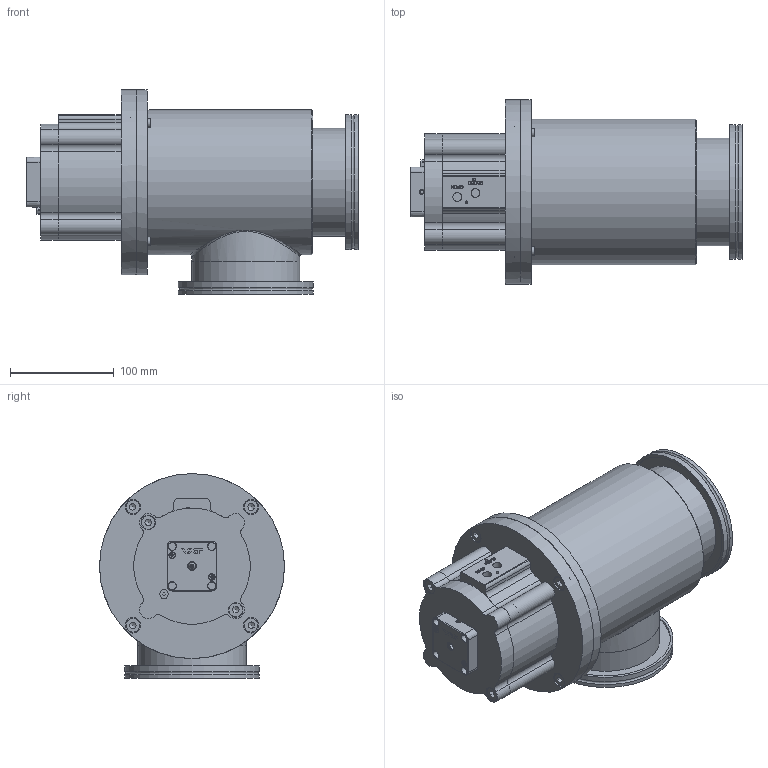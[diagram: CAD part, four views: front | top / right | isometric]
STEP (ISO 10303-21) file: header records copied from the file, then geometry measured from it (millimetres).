
FILE_DESCRIPTION(/* description */ (''),/* implementation_level */ '2;1');
FILE_NAME(/* name */ '1214905432_203.stp',/* time_stamp */ '2016-03-04T11:07:29+01:00',/* author */ (''),/* organization */ (''),/* preprocessor_version */ 'ST-DEVELOPER v15',/* originating_system */ 'SIEMENS PLM Software NX 9.0',/* authorisation */ '');
FILE_SCHEMA (('AP203_CONFIGURATION_CONTROLLED_3D_DESIGN_OF_MECHANICAL_PARTS_AND_ASSEMBLIES_MIM_LF { 1 0 10303 403 2 1 2}'));
Length unit declared in the file: millimetre
Products named in the file (21): 517238; 513742; 517224; 517223; 517222; 517221; 233359; 236204_1.1; n-6121-026.2; 517625_22966ID; 224847.1; n-7636-200.2; 544232; 542372; 228777; 476060; 239983.3; 517218_MODEL; 522001_MODEL; 561077_MODEL; 705399
Assembly tree (27 placements, depth 4):
  705399
    476060
    228777  x4
    542372
    561077_MODEL
      517625_22966ID
      n-6121-026.2  x2
    522001_MODEL
      517218_MODEL
        517221  x2
        517222
        517223
        517224
        513742
        517238
    544232
    n-7636-200.2
    239983.3
      236204_1.1  x2
      233359
    224847.1  x2
Bounding box: 319.5 x 178 x 197 mm (x, y, z)
Volume: 1141264.4 mm3; surface area: 470280 mm2
Topology: 35 solids, 35 shells, 784 faces, 1932 edges, 1271 vertices
Faces by surface type: plane 425, cylinder 231, cone 67, torus 21, extrusion 19, bspline 19, sphere 2
Full cylindrical faces by diameter (mm): 2.5 x5, 3 x7, 3.85 x2, 4.2 x2, 5 x1, 5.6 x2, 6.2 x2, 6.66 x6, 6.7 x6, 6.8 x8, 7.4 x1, 8 x13, 8.15 x2, 8.3 x6, 8.4 x1, 8.566 x2, 9 x4, 13 x6, 14 x2, 15 x6, 21 x1, 23.011 x2, 23.3 x1, 29.4 x1, 30 x1, 39.5 x1, 40 x1, 44.4 x1, 50 x1, 100 x6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
Entity records: 24059 total; most frequent: CARTESIAN_POINT 5805, DIRECTION 3204, ORIENTED_EDGE 2996, EDGE_CURVE 1498, AXIS2_PLACEMENT_3D 1225, VERTEX_POINT 1080, EDGE_LOOP 975, VECTOR 754
